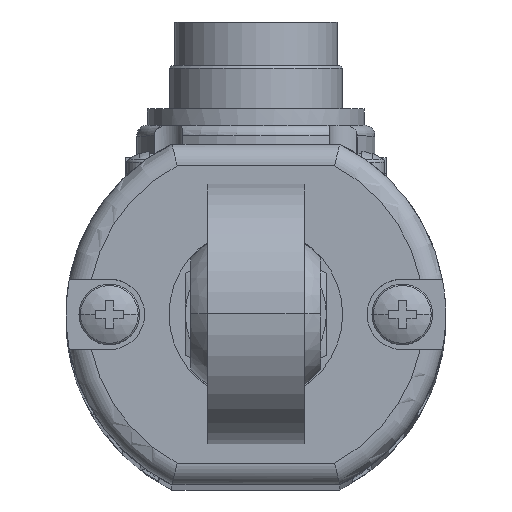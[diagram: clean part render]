
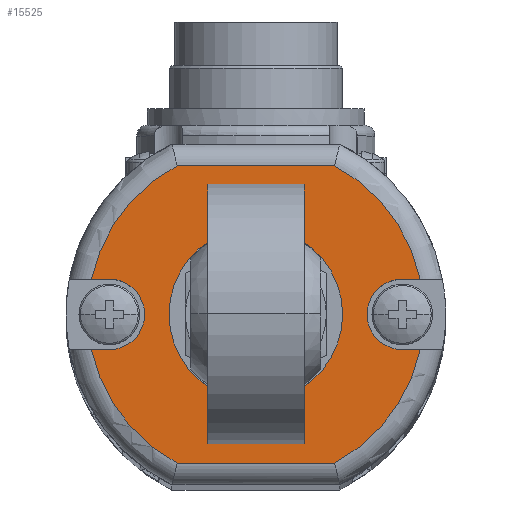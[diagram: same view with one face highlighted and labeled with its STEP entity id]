
A CAD part, top view. The second image highlights one B-rep face of the part: STEP entity #15525.
In plain terms, the highlighted planar face has unit normal (0, 0, 1).
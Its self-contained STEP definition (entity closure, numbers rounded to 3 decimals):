
#5 = CARTESIAN_POINT ( 'NONE',  ( -13.5, 3.25, 255. ) ) ;
#45 = VERTEX_POINT ( 'NONE', #12101 ) ;
#156 = DIRECTION ( 'NONE',  ( -1., 0., 0. ) ) ;
#238 = DIRECTION ( 'NONE',  ( 0., 0., 1. ) ) ;
#334 = CIRCLE ( 'NONE', #13910, 6.5 ) ;
#343 = ORIENTED_EDGE ( 'NONE', *, *, #4231, .F. ) ;
#429 = VERTEX_POINT ( 'NONE', #3270 ) ;
#464 = CARTESIAN_POINT ( 'NONE',  ( -7.25, 13.7, 255. ) ) ;
#529 = DIRECTION ( 'NONE',  ( 0., 0., -1. ) ) ;
#712 = DIRECTION ( 'NONE',  ( 0., 0., -1. ) ) ;
#766 = EDGE_CURVE ( 'NONE', #429, #10081, #4282, .T. ) ;
#784 = DIRECTION ( 'NONE',  ( 1., 0., 0. ) ) ;
#954 = DIRECTION ( 'NONE',  ( 0., 0., -1. ) ) ;
#1060 = CARTESIAN_POINT ( 'NONE',  ( 13.5, 3.25, 255. ) ) ;
#1093 = LINE ( 'NONE', #3514, #7945 ) ;
#1134 = ORIENTED_EDGE ( 'NONE', *, *, #4089, .F. ) ;
#1164 = EDGE_CURVE ( 'NONE', #3172, #45, #10889, .T. ) ;
#1309 = VERTEX_POINT ( 'NONE', #11870 ) ;
#1346 = DIRECTION ( 'NONE',  ( 1., 0., 0. ) ) ;
#1371 = EDGE_CURVE ( 'NONE', #1309, #45, #11002, .T. ) ;
#2090 = ORIENTED_EDGE ( 'NONE', *, *, #15304, .T. ) ;
#2237 = CIRCLE ( 'NONE', #8263, 6.5 ) ;
#2287 = DIRECTION ( 'NONE',  ( 1., 0., 0. ) ) ;
#2584 = AXIS2_PLACEMENT_3D ( 'NONE', #9038, #6684, #13855 ) ;
#2705 = VERTEX_POINT ( 'NONE', #10351 ) ;
#2819 = CARTESIAN_POINT ( 'NONE',  ( -20., -13.7, 255. ) ) ;
#2820 = EDGE_CURVE ( 'NONE', #2705, #12600, #3819, .T. ) ;
#2827 = CARTESIAN_POINT ( 'NONE',  ( 0., 0., 255. ) ) ;
#2889 = DIRECTION ( 'NONE',  ( 1., 0., 0. ) ) ;
#3013 = CARTESIAN_POINT ( 'NONE',  ( 7.25, 13.7, 255. ) ) ;
#3172 = VERTEX_POINT ( 'NONE', #13574 ) ;
#3207 = VERTEX_POINT ( 'NONE', #3013 ) ;
#3270 = CARTESIAN_POINT ( 'NONE',  ( -15.155, 3.25, 255. ) ) ;
#3447 = CARTESIAN_POINT ( 'NONE',  ( -6.5, 0., 255. ) ) ;
#3514 = CARTESIAN_POINT ( 'NONE',  ( -20., 13.7, 255. ) ) ;
#3606 = DIRECTION ( 'NONE',  ( 0., 0., -1. ) ) ;
#3819 = CIRCLE ( 'NONE', #9846, 3.25 ) ;
#3911 = DIRECTION ( 'NONE',  ( 0., 0., -1. ) ) ;
#4089 = EDGE_CURVE ( 'NONE', #429, #6251, #13230, .T. ) ;
#4231 = EDGE_CURVE ( 'NONE', #6251, #3207, #1093, .T. ) ;
#4276 = VECTOR ( 'NONE', #10093, 1000. ) ;
#4282 = LINE ( 'NONE', #7746, #5093 ) ;
#4520 = CIRCLE ( 'NONE', #13330, 15.5 ) ;
#4566 = EDGE_LOOP ( 'NONE', ( #8401, #5194, #9507, #6912, #12210, #2090, #13051, #7256, #5898, #13952, #343, #1134, #13873 ) ) ;
#4878 = CARTESIAN_POINT ( 'NONE',  ( 0., -15.5, 255. ) ) ;
#5084 = ORIENTED_EDGE ( 'NONE', *, *, #6207, .T. ) ;
#5093 = VECTOR ( 'NONE', #13970, 1000. ) ;
#5194 = ORIENTED_EDGE ( 'NONE', *, *, #11043, .T. ) ;
#5294 = LINE ( 'NONE', #8972, #4276 ) ;
#5347 = DIRECTION ( 'NONE',  ( 0., 0., -1. ) ) ;
#5563 = ORIENTED_EDGE ( 'NONE', *, *, #7123, .T. ) ;
#5729 = EDGE_CURVE ( 'NONE', #10583, #2705, #11794, .T. ) ;
#5898 = ORIENTED_EDGE ( 'NONE', *, *, #10682, .T. ) ;
#6018 = VECTOR ( 'NONE', #10733, 1000. ) ;
#6207 = EDGE_CURVE ( 'NONE', #10141, #12565, #334, .T. ) ;
#6251 = VERTEX_POINT ( 'NONE', #464 ) ;
#6585 = CARTESIAN_POINT ( 'NONE',  ( 13.5, 0., 255. ) ) ;
#6684 = DIRECTION ( 'NONE',  ( 0., 0., -1. ) ) ;
#6834 = VERTEX_POINT ( 'NONE', #8588 ) ;
#6912 = ORIENTED_EDGE ( 'NONE', *, *, #1371, .T. ) ;
#6971 = CIRCLE ( 'NONE', #11498, 15.5 ) ;
#7123 = EDGE_CURVE ( 'NONE', #12565, #10141, #2237, .T. ) ;
#7256 = ORIENTED_EDGE ( 'NONE', *, *, #2820, .T. ) ;
#7438 = AXIS2_PLACEMENT_3D ( 'NONE', #7928, #10521, #784 ) ;
#7691 = VECTOR ( 'NONE', #9738, 1000. ) ;
#7746 = CARTESIAN_POINT ( 'NONE',  ( -18.5, 3.25, 255. ) ) ;
#7928 = CARTESIAN_POINT ( 'NONE',  ( 0., 0., 255. ) ) ;
#7945 = VECTOR ( 'NONE', #11935, 1000. ) ;
#8263 = AXIS2_PLACEMENT_3D ( 'NONE', #15278, #954, #15363 ) ;
#8287 = CIRCLE ( 'NONE', #14590, 3.25 ) ;
#8401 = ORIENTED_EDGE ( 'NONE', *, *, #10119, .T. ) ;
#8573 = PLANE ( 'NONE',  #13590 ) ;
#8588 = CARTESIAN_POINT ( 'NONE',  ( 15.155, 3.25, 255. ) ) ;
#8867 = VECTOR ( 'NONE', #2889, 1000. ) ;
#8965 = DIRECTION ( 'NONE',  ( 0., 0., -1. ) ) ;
#8972 = CARTESIAN_POINT ( 'NONE',  ( 18.5, -3.25, 255. ) ) ;
#9038 = CARTESIAN_POINT ( 'NONE',  ( 0., 0., 255. ) ) ;
#9276 = EDGE_LOOP ( 'NONE', ( #5563, #5084 ) ) ;
#9440 = VERTEX_POINT ( 'NONE', #11133 ) ;
#9507 = ORIENTED_EDGE ( 'NONE', *, *, #10256, .F. ) ;
#9674 = CARTESIAN_POINT ( 'NONE',  ( 0., 0., 255. ) ) ;
#9680 = FACE_OUTER_BOUND ( 'NONE', #4566, .T. ) ;
#9738 = DIRECTION ( 'NONE',  ( -1., 0., 0. ) ) ;
#9846 = AXIS2_PLACEMENT_3D ( 'NONE', #6585, #529, #13906 ) ;
#10081 = VERTEX_POINT ( 'NONE', #5 ) ;
#10093 = DIRECTION ( 'NONE',  ( -1., 0., 0. ) ) ;
#10119 = EDGE_CURVE ( 'NONE', #10081, #9440, #8287, .T. ) ;
#10141 = VERTEX_POINT ( 'NONE', #3447 ) ;
#10256 = EDGE_CURVE ( 'NONE', #1309, #15204, #4520, .T. ) ;
#10351 = CARTESIAN_POINT ( 'NONE',  ( 10.25, 0., 255. ) ) ;
#10521 = DIRECTION ( 'NONE',  ( 0., 0., -1. ) ) ;
#10583 = VERTEX_POINT ( 'NONE', #14928 ) ;
#10682 = EDGE_CURVE ( 'NONE', #12600, #6834, #15387, .T. ) ;
#10702 = CARTESIAN_POINT ( 'NONE',  ( -13.5, 0., 255. ) ) ;
#10733 = DIRECTION ( 'NONE',  ( 1., 0., 0. ) ) ;
#10855 = LINE ( 'NONE', #10929, #7691 ) ;
#10889 = CIRCLE ( 'NONE', #2584, 15.5 ) ;
#10929 = CARTESIAN_POINT ( 'NONE',  ( -13.5, -3.25, 255. ) ) ;
#11002 = LINE ( 'NONE', #2819, #8867 ) ;
#11043 = EDGE_CURVE ( 'NONE', #9440, #15204, #10855, .T. ) ;
#11133 = CARTESIAN_POINT ( 'NONE',  ( -13.5, -3.25, 255. ) ) ;
#11418 = DIRECTION ( 'NONE',  ( 1., 0., 0. ) ) ;
#11419 = CARTESIAN_POINT ( 'NONE',  ( 13.5, 0., 255. ) ) ;
#11498 = AXIS2_PLACEMENT_3D ( 'NONE', #13777, #712, #11418 ) ;
#11794 = CIRCLE ( 'NONE', #13817, 3.25 ) ;
#11870 = CARTESIAN_POINT ( 'NONE',  ( -7.25, -13.7, 255. ) ) ;
#11935 = DIRECTION ( 'NONE',  ( 1., 0., 0. ) ) ;
#12101 = CARTESIAN_POINT ( 'NONE',  ( 7.25, -13.7, 255. ) ) ;
#12210 = ORIENTED_EDGE ( 'NONE', *, *, #1164, .F. ) ;
#12451 = EDGE_CURVE ( 'NONE', #3207, #6834, #6971, .T. ) ;
#12509 = DIRECTION ( 'NONE',  ( 1., 0., 0. ) ) ;
#12565 = VERTEX_POINT ( 'NONE', #14096 ) ;
#12600 = VERTEX_POINT ( 'NONE', #14331 ) ;
#13051 = ORIENTED_EDGE ( 'NONE', *, *, #5729, .T. ) ;
#13230 = CIRCLE ( 'NONE', #7438, 15.5 ) ;
#13330 = AXIS2_PLACEMENT_3D ( 'NONE', #9674, #3911, #1346 ) ;
#13574 = CARTESIAN_POINT ( 'NONE',  ( 15.155, -3.25, 255. ) ) ;
#13590 = AXIS2_PLACEMENT_3D ( 'NONE', #4878, #238, #156 ) ;
#13777 = CARTESIAN_POINT ( 'NONE',  ( 0., 0., 255. ) ) ;
#13817 = AXIS2_PLACEMENT_3D ( 'NONE', #11419, #8965, #14652 ) ;
#13855 = DIRECTION ( 'NONE',  ( 1., 0., 0. ) ) ;
#13873 = ORIENTED_EDGE ( 'NONE', *, *, #766, .T. ) ;
#13906 = DIRECTION ( 'NONE',  ( 1., 0., 0. ) ) ;
#13910 = AXIS2_PLACEMENT_3D ( 'NONE', #2827, #5347, #12509 ) ;
#13952 = ORIENTED_EDGE ( 'NONE', *, *, #12451, .F. ) ;
#13970 = DIRECTION ( 'NONE',  ( 1., 0., 0. ) ) ;
#14096 = CARTESIAN_POINT ( 'NONE',  ( 6.5, 0., 255. ) ) ;
#14331 = CARTESIAN_POINT ( 'NONE',  ( 13.5, 3.25, 255. ) ) ;
#14435 = CARTESIAN_POINT ( 'NONE',  ( -15.155, -3.25, 255. ) ) ;
#14590 = AXIS2_PLACEMENT_3D ( 'NONE', #10702, #3606, #2287 ) ;
#14638 = FACE_BOUND ( 'NONE', #9276, .T. ) ;
#14652 = DIRECTION ( 'NONE',  ( 1., 0., 0. ) ) ;
#14928 = CARTESIAN_POINT ( 'NONE',  ( 13.5, -3.25, 255. ) ) ;
#15204 = VERTEX_POINT ( 'NONE', #14435 ) ;
#15278 = CARTESIAN_POINT ( 'NONE',  ( 0., 0., 255. ) ) ;
#15304 = EDGE_CURVE ( 'NONE', #3172, #10583, #5294, .T. ) ;
#15363 = DIRECTION ( 'NONE',  ( 1., 0., 0. ) ) ;
#15387 = LINE ( 'NONE', #1060, #6018 ) ;
#15525 = ADVANCED_FACE ( 'NONE', ( #9680, #14638 ), #8573, .T. ) ;
